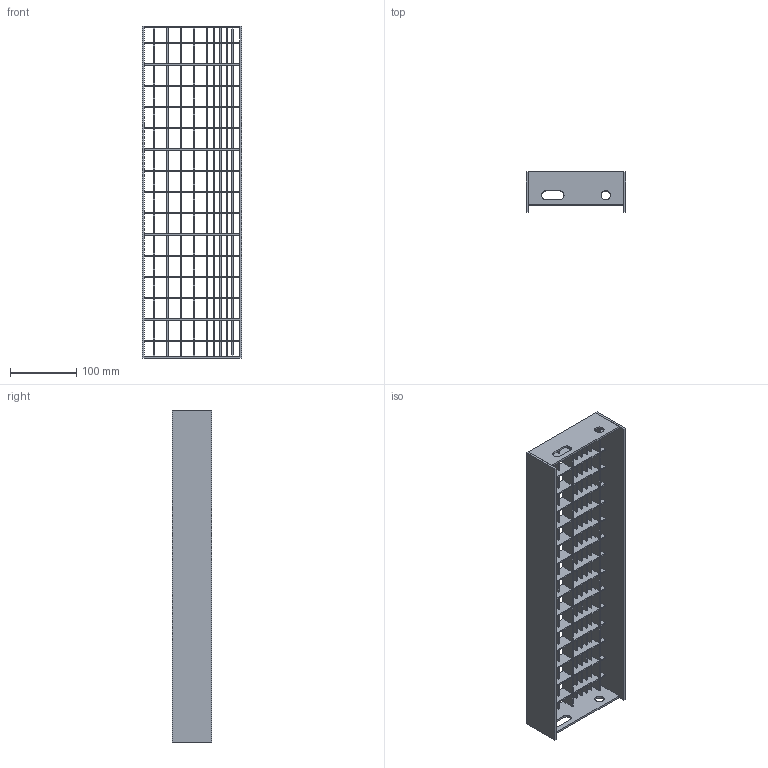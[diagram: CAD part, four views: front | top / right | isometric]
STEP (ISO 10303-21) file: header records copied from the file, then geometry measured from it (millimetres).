
FILE_DESCRIPTION (( 'STEP AP203' ), '1' );
FILE_NAME ('23007155S_ Gitterristetrin_150x500mm.STEP', '2014-12-15T12:41:50', ( '' ), ( '' ), 'SwSTEP 2.0', 'SolidWorks 2013', '' );
FILE_SCHEMA (( 'CONFIG_CONTROL_DESIGN' ));
Length unit declared in the file: millimetre
Products named in the file (9): Styreribbe_20x2x494mm; Styreribbe_m_savtak_20x2x494mm; 23007155S_ Gitterristetrin_150x500mm; Endestykke_50x3x144mm; Kantstaal_60x3x500mm; Kantstaal_m_savtak_60x3x500mm (2); Baereribbe_20x2x144; Fylderibbe_10x2x494mm; Fylderibbe_m_savtak_10x2x494mm
Assembly tree (28 placements, depth 2):
  23007155S_ Gitterristetrin_150x500mm
    Endestykke_50x3x144mm  x2
    Kantstaal_60x3x500mm
    Kantstaal_m_savtak_60x3x500mm (2)
    Baereribbe_20x2x144  x15
    Fylderibbe_10x2x494mm  x2
    Fylderibbe_m_savtak_10x2x494mm  x4
    Styreribbe_20x2x494mm  x2
    Styreribbe_m_savtak_20x2x494mm
Bounding box: 150 x 60 x 500 mm (x, y, z)
Volume: 410813 mm3; surface area: 384617.3 mm2
Topology: 28 solids, 28 shells, 2578 faces, 7566 edges, 5044 vertices
Faces by surface type: plane 2152, cylinder 426
Full cylindrical faces by diameter (mm): 14 x2
Entity records: 36281 total; most frequent: CARTESIAN_POINT 6244, ORIENTED_EDGE 6196, DIRECTION 5684, EDGE_CURVE 3098, VECTOR 2672, LINE 2672, VERTEX_POINT 2066, AXIS2_PLACEMENT_3D 1506
